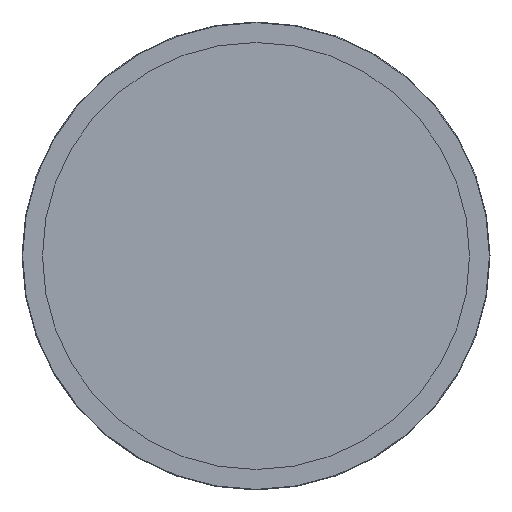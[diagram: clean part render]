
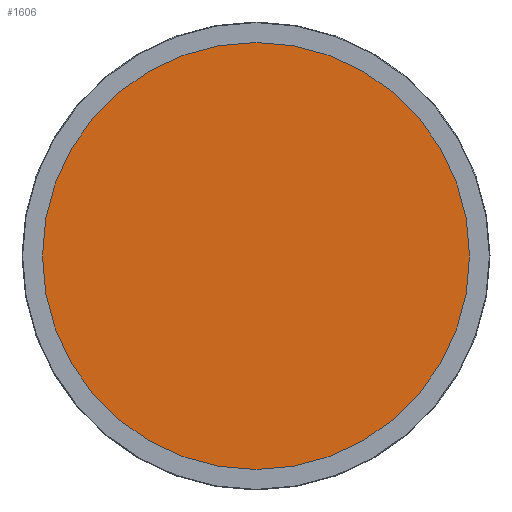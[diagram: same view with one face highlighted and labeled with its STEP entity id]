
A CAD part, front view. The second image highlights one B-rep face of the part: STEP entity #1606.
In plain terms, the highlighted planar face has unit normal (0, -1, 0).
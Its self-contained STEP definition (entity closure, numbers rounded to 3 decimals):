
#350=PLANE('',#1748);
#408=ORIENTED_EDGE('',*,*,#855,.F.);
#855=EDGE_CURVE('',#1082,#1082,#1237,.T.);
#1082=VERTEX_POINT('',#2403);
#1237=CIRCLE('',#1746,365.);
#1319=EDGE_LOOP('',(#408));
#1447=FACE_BOUND('',#1319,.T.);
#1606=ADVANCED_FACE('',(#1447),#350,.F.);
#1746=AXIS2_PLACEMENT_3D('',#2402,#1926,#1927);
#1748=AXIS2_PLACEMENT_3D('',#2405,#1930,#1931);
#1926=DIRECTION('',(0.,1.,0.));
#1927=DIRECTION('',(1.,0.,0.));
#1930=DIRECTION('',(0.,1.,0.));
#1931=DIRECTION('',(0.,0.,1.));
#2402=CARTESIAN_POINT('',(424.341,0.,252.934));
#2403=CARTESIAN_POINT('',(789.341,0.,252.934));
#2405=CARTESIAN_POINT('',(424.341,0.,252.934));
